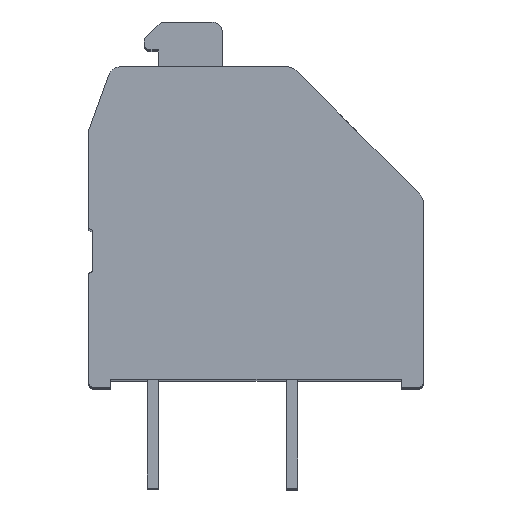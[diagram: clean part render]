
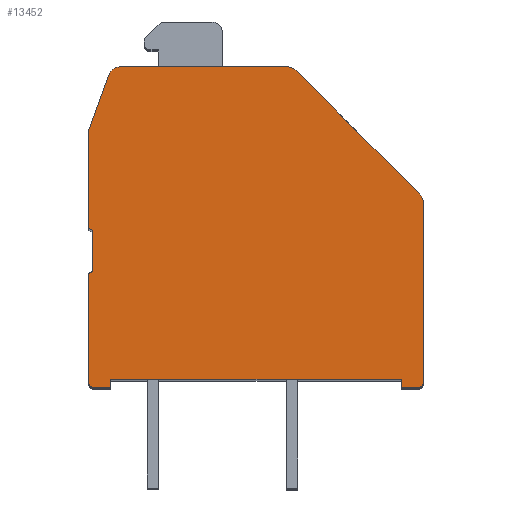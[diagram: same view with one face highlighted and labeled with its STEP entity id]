
A CAD part, top view. The second image highlights one B-rep face of the part: STEP entity #13452.
In plain terms, the highlighted planar face has unit normal (0, 0, 1).
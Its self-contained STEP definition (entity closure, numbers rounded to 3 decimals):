
#68=CIRCLE('',#13897,0.5);
#167=CIRCLE('',#14243,0.15);
#169=CIRCLE('',#14247,0.15);
#171=CIRCLE('',#14252,0.5);
#173=CIRCLE('',#14255,0.5);
#240=CIRCLE('',#14485,0.2);
#241=CIRCLE('',#14491,0.2);
#543=PLANE('',#14492);
#894=LINE('',#18820,#2505);
#1367=LINE('',#20039,#2978);
#1609=LINE('',#20634,#3220);
#1614=LINE('',#20645,#3225);
#1619=LINE('',#20659,#3230);
#1626=LINE('',#20676,#3237);
#1721=LINE('',#20836,#3332);
#1726=LINE('',#20852,#3337);
#1925=LINE('',#21415,#3536);
#1926=LINE('',#21417,#3537);
#1928=LINE('',#21421,#3539);
#1930=LINE('',#21425,#3541);
#2505=VECTOR('',#14981,1000.);
#2978=VECTOR('',#16036,1000.);
#3220=VECTOR('',#16532,1000.);
#3225=VECTOR('',#16539,1000.);
#3230=VECTOR('',#16552,1000.);
#3237=VECTOR('',#16567,1000.);
#3332=VECTOR('',#16664,1000.);
#3337=VECTOR('',#16683,1000.);
#3536=VECTOR('',#17342,1000.);
#3537=VECTOR('',#17345,1000.);
#3539=VECTOR('',#17349,1000.);
#3541=VECTOR('',#17353,1000.);
#6341=ORIENTED_EDGE('',*,*,#9016,.T.);
#6342=ORIENTED_EDGE('',*,*,#9020,.F.);
#6343=ORIENTED_EDGE('',*,*,#9023,.T.);
#6344=ORIENTED_EDGE('',*,*,#9026,.F.);
#6345=ORIENTED_EDGE('',*,*,#9032,.T.);
#6346=ORIENTED_EDGE('',*,*,#9400,.T.);
#6347=ORIENTED_EDGE('',*,*,#9402,.T.);
#6348=ORIENTED_EDGE('',*,*,#9403,.T.);
#6349=ORIENTED_EDGE('',*,*,#9011,.T.);
#6350=ORIENTED_EDGE('',*,*,#9405,.T.);
#6351=ORIENTED_EDGE('',*,*,#9407,.T.);
#6352=ORIENTED_EDGE('',*,*,#9408,.T.);
#6353=ORIENTED_EDGE('',*,*,#9127,.T.);
#6354=ORIENTED_EDGE('',*,*,#9131,.T.);
#6355=ORIENTED_EDGE('',*,*,#8088,.T.);
#6356=ORIENTED_EDGE('',*,*,#8170,.T.);
#6357=ORIENTED_EDGE('',*,*,#8707,.T.);
#6358=ORIENTED_EDGE('',*,*,#9134,.T.);
#6359=ORIENTED_EDGE('',*,*,#9136,.T.);
#8088=EDGE_CURVE('',#10066,#10065,#894,.T.);
#8170=EDGE_CURVE('',#10065,#10131,#68,.T.);
#8707=EDGE_CURVE('',#10131,#10520,#1367,.T.);
#9011=EDGE_CURVE('',#10747,#10746,#1609,.T.);
#9016=EDGE_CURVE('',#10752,#10751,#1614,.T.);
#9020=EDGE_CURVE('',#10754,#10751,#167,.T.);
#9023=EDGE_CURVE('',#10754,#10756,#1619,.T.);
#9026=EDGE_CURVE('',#10758,#10756,#169,.T.);
#9032=EDGE_CURVE('',#10758,#10762,#1626,.T.);
#9127=EDGE_CURVE('',#10827,#10826,#1721,.T.);
#9131=EDGE_CURVE('',#10826,#10066,#171,.T.);
#9134=EDGE_CURVE('',#10520,#10830,#173,.T.);
#9136=EDGE_CURVE('',#10830,#10752,#1726,.T.);
#9400=EDGE_CURVE('',#10762,#10963,#240,.T.);
#9402=EDGE_CURVE('',#10963,#10964,#1925,.T.);
#9403=EDGE_CURVE('',#10964,#10747,#1926,.T.);
#9405=EDGE_CURVE('',#10746,#10965,#1928,.T.);
#9407=EDGE_CURVE('',#10965,#10966,#1930,.T.);
#9408=EDGE_CURVE('',#10966,#10827,#241,.T.);
#10065=VERTEX_POINT('',#18819);
#10066=VERTEX_POINT('',#18821);
#10131=VERTEX_POINT('',#18982);
#10520=VERTEX_POINT('',#20038);
#10746=VERTEX_POINT('',#20633);
#10747=VERTEX_POINT('',#20635);
#10751=VERTEX_POINT('',#20644);
#10752=VERTEX_POINT('',#20646);
#10754=VERTEX_POINT('',#20652);
#10756=VERTEX_POINT('',#20658);
#10758=VERTEX_POINT('',#20664);
#10762=VERTEX_POINT('',#20675);
#10826=VERTEX_POINT('',#20835);
#10827=VERTEX_POINT('',#20837);
#10830=VERTEX_POINT('',#20848);
#10963=VERTEX_POINT('',#21410);
#10964=VERTEX_POINT('',#21414);
#10965=VERTEX_POINT('',#21420);
#10966=VERTEX_POINT('',#21424);
#11835=EDGE_LOOP('',(#6341,#6342,#6343,#6344,#6345,#6346,#6347,#6348,#6349,
#6350,#6351,#6352,#6353,#6354,#6355,#6356,#6357,#6358,#6359));
#12592=FACE_BOUND('',#11835,.T.);
#13452=ADVANCED_FACE('',(#12592),#543,.T.);
#13897=AXIS2_PLACEMENT_3D('',#18983,#15153,#15154);
#14243=AXIS2_PLACEMENT_3D('',#20653,#16546,#16547);
#14247=AXIS2_PLACEMENT_3D('',#20665,#16558,#16559);
#14252=AXIS2_PLACEMENT_3D('',#20843,#16671,#16672);
#14255=AXIS2_PLACEMENT_3D('',#20849,#16678,#16679);
#14485=AXIS2_PLACEMENT_3D('',#21411,#17337,#17338);
#14491=AXIS2_PLACEMENT_3D('',#21427,#17356,#17357);
#14492=AXIS2_PLACEMENT_3D('',#21428,#17358,#17359);
#14981=DIRECTION('',(-0.707,0.707,0.));
#15153=DIRECTION('',(0.,0.,1.));
#15154=DIRECTION('',(1.,0.,0.));
#16036=DIRECTION('',(-1.,0.,0.));
#16532=DIRECTION('',(1.,0.,0.));
#16539=DIRECTION('',(0.,-1.,0.));
#16546=DIRECTION('',(0.,0.,1.));
#16547=DIRECTION('',(1.,0.,0.));
#16552=DIRECTION('',(0.,-1.,0.));
#16558=DIRECTION('',(0.,0.,1.));
#16559=DIRECTION('',(1.,0.,0.));
#16567=DIRECTION('',(0.,-1.,0.));
#16664=DIRECTION('',(0.,1.,0.));
#16671=DIRECTION('',(0.,0.,1.));
#16672=DIRECTION('',(1.,0.,0.));
#16678=DIRECTION('',(0.,0.,1.));
#16679=DIRECTION('',(1.,0.,0.));
#16683=DIRECTION('',(-0.342,-0.94,0.));
#17337=DIRECTION('',(0.,0.,1.));
#17338=DIRECTION('',(1.,0.,0.));
#17342=DIRECTION('',(1.,0.,0.));
#17345=DIRECTION('',(0.,1.,0.));
#17349=DIRECTION('',(0.,-1.,0.));
#17353=DIRECTION('',(1.,0.,0.));
#17356=DIRECTION('',(0.,0.,1.));
#17357=DIRECTION('',(1.,0.,0.));
#17358=DIRECTION('',(0.,0.,1.));
#17359=DIRECTION('',(1.,0.,0.));
#18819=CARTESIAN_POINT('',(0.146,11.354,42.14));
#18820=CARTESIAN_POINT('',(4.554,6.946,42.14));
#18821=CARTESIAN_POINT('',(4.554,6.946,42.14));
#18982=CARTESIAN_POINT('',(-0.207,11.5,42.14));
#18983=CARTESIAN_POINT('',(-0.207,11.,42.14));
#20038=CARTESIAN_POINT('',(-6.113,11.5,42.14));
#20039=CARTESIAN_POINT('',(-0.207,11.5,42.14));
#20633=CARTESIAN_POINT('',(3.9,0.3,42.14));
#20634=CARTESIAN_POINT('',(-6.5,0.3,42.14));
#20635=CARTESIAN_POINT('',(-6.5,0.3,42.14));
#20644=CARTESIAN_POINT('',(-7.3,5.7,42.14));
#20645=CARTESIAN_POINT('',(-7.3,9.2,42.14));
#20646=CARTESIAN_POINT('',(-7.3,9.2,42.14));
#20652=CARTESIAN_POINT('',(-7.15,5.55,42.14));
#20653=CARTESIAN_POINT('',(-7.3,5.55,42.14));
#20658=CARTESIAN_POINT('',(-7.15,4.25,42.14));
#20659=CARTESIAN_POINT('',(-7.15,5.55,42.14));
#20664=CARTESIAN_POINT('',(-7.3,4.1,42.14));
#20665=CARTESIAN_POINT('',(-7.3,4.25,42.14));
#20675=CARTESIAN_POINT('',(-7.3,0.2,42.14));
#20676=CARTESIAN_POINT('',(-7.3,4.1,42.14));
#20835=CARTESIAN_POINT('',(4.7,6.593,42.14));
#20836=CARTESIAN_POINT('',(4.7,0.2,42.14));
#20837=CARTESIAN_POINT('',(4.7,0.2,42.14));
#20843=CARTESIAN_POINT('',(4.2,6.593,42.14));
#20848=CARTESIAN_POINT('',(-6.583,11.171,42.14));
#20849=CARTESIAN_POINT('',(-6.113,11.,42.14));
#20852=CARTESIAN_POINT('',(-6.583,11.171,42.14));
#21410=CARTESIAN_POINT('',(-7.1,0.,42.14));
#21411=CARTESIAN_POINT('',(-7.1,0.2,42.14));
#21414=CARTESIAN_POINT('',(-6.5,0.,42.14));
#21415=CARTESIAN_POINT('',(-7.1,0.,42.14));
#21417=CARTESIAN_POINT('',(-6.5,0.,42.14));
#21420=CARTESIAN_POINT('',(3.9,0.,42.14));
#21421=CARTESIAN_POINT('',(3.9,0.3,42.14));
#21424=CARTESIAN_POINT('',(4.5,0.,42.14));
#21425=CARTESIAN_POINT('',(3.9,0.,42.14));
#21427=CARTESIAN_POINT('',(4.5,0.2,42.14));
#21428=CARTESIAN_POINT('',(-7.3,5.55,42.14));
